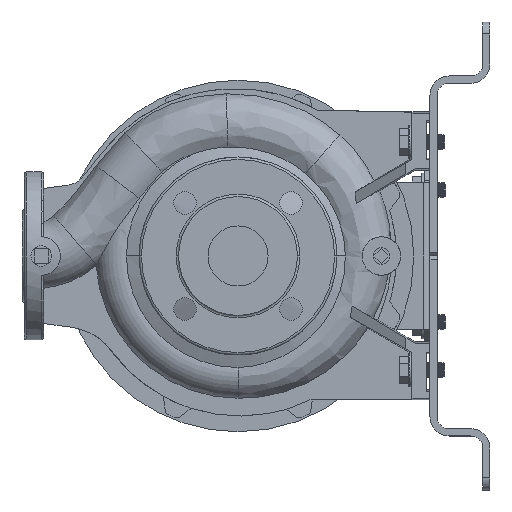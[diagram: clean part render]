
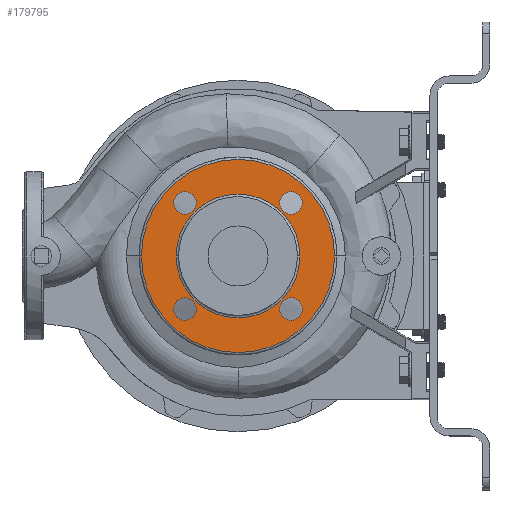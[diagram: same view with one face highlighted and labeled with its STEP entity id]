
A CAD part, left-side view. The second image highlights one B-rep face of the part: STEP entity #179795.
In plain terms, the highlighted planar face has unit normal (-1, 0, 0).
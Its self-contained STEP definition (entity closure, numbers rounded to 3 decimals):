
#2374 = VERTEX_POINT ( 'NONE', #113553 ) ;
#3198 = DIRECTION ( 'NONE',  ( -1., 0., 0. ) ) ;
#3449 = EDGE_LOOP ( 'NONE', ( #95793, #33792 ) ) ;
#3582 = EDGE_LOOP ( 'NONE', ( #151907, #168632 ) ) ;
#5543 = CIRCLE ( 'NONE', #92190, 80.5 ) ;
#5945 = EDGE_CURVE ( 'NONE', #12236, #63255, #109373, .T. ) ;
#6536 = VERTEX_POINT ( 'NONE', #120479 ) ;
#9191 = CARTESIAN_POINT ( 'NONE',  ( -78., -44.194, 44.194 ) ) ;
#11956 = CARTESIAN_POINT ( 'NONE',  ( -78., -51.5, 0. ) ) ;
#12236 = VERTEX_POINT ( 'NONE', #34732 ) ;
#15336 = EDGE_CURVE ( 'NONE', #69836, #98791, #116028, .T. ) ;
#16054 = AXIS2_PLACEMENT_3D ( 'NONE', #9191, #35436, #37278 ) ;
#18923 = AXIS2_PLACEMENT_3D ( 'NONE', #32266, #134303, #38476 ) ;
#19164 = EDGE_LOOP ( 'NONE', ( #110236, #131657 ) ) ;
#19491 = ORIENTED_EDGE ( 'NONE', *, *, #52812, .F. ) ;
#21240 = DIRECTION ( 'NONE',  ( -1., 0., 0. ) ) ;
#22692 = DIRECTION ( 'NONE',  ( 0., 1., 0. ) ) ;
#27019 = EDGE_CURVE ( 'NONE', #59258, #2374, #180402, .T. ) ;
#27023 = EDGE_CURVE ( 'NONE', #164347, #124750, #123594, .T. ) ;
#28601 = AXIS2_PLACEMENT_3D ( 'NONE', #169372, #140337, #69178 ) ;
#32266 = CARTESIAN_POINT ( 'NONE',  ( -78., 44.194, 44.194 ) ) ;
#33395 = CIRCLE ( 'NONE', #165089, 9.5 ) ;
#33433 = CARTESIAN_POINT ( 'NONE',  ( -78., 44.194, -44.194 ) ) ;
#33792 = ORIENTED_EDGE ( 'NONE', *, *, #163887, .T. ) ;
#34732 = CARTESIAN_POINT ( 'NONE',  ( -78., -80.5, 0. ) ) ;
#35436 = DIRECTION ( 'NONE',  ( -1., 0., 0. ) ) ;
#35702 = CARTESIAN_POINT ( 'NONE',  ( -78., 80.5, 0. ) ) ;
#37278 = DIRECTION ( 'NONE',  ( 0., 0., -1. ) ) ;
#38476 = DIRECTION ( 'NONE',  ( 0., -1., 0. ) ) ;
#39722 = VERTEX_POINT ( 'NONE', #46071 ) ;
#41995 = CARTESIAN_POINT ( 'NONE',  ( -78., -44.194, 44.194 ) ) ;
#45533 = AXIS2_PLACEMENT_3D ( 'NONE', #184288, #141214, #84126 ) ;
#46071 = CARTESIAN_POINT ( 'NONE',  ( -78., 51.5, 0. ) ) ;
#46294 = DIRECTION ( 'NONE',  ( 0., 0., 1. ) ) ;
#48107 = CARTESIAN_POINT ( 'NONE',  ( -78., -44.194, -44.194 ) ) ;
#50782 = PLANE ( 'NONE',  #151335 ) ;
#52812 = EDGE_CURVE ( 'NONE', #2374, #59258, #123013, .T. ) ;
#54036 = EDGE_CURVE ( 'NONE', #6536, #170288, #141143, .T. ) ;
#54126 = AXIS2_PLACEMENT_3D ( 'NONE', #126971, #141018, #180448 ) ;
#54423 = FACE_BOUND ( 'NONE', #169052, .T. ) ;
#59218 = AXIS2_PLACEMENT_3D ( 'NONE', #48107, #3198, #60311 ) ;
#59258 = VERTEX_POINT ( 'NONE', #109710 ) ;
#59542 = EDGE_CURVE ( 'NONE', #170288, #6536, #156666, .T. ) ;
#60311 = DIRECTION ( 'NONE',  ( 0., 1., 0. ) ) ;
#62015 = DIRECTION ( 'NONE',  ( 0., -1., 0. ) ) ;
#63169 = CARTESIAN_POINT ( 'NONE',  ( -78., 44.194, -44.194 ) ) ;
#63255 = VERTEX_POINT ( 'NONE', #35702 ) ;
#64170 = EDGE_LOOP ( 'NONE', ( #83135, #139194 ) ) ;
#64386 = ORIENTED_EDGE ( 'NONE', *, *, #77939, .F. ) ;
#69178 = DIRECTION ( 'NONE',  ( 0., -1., 0. ) ) ;
#69836 = VERTEX_POINT ( 'NONE', #99045 ) ;
#71023 = VERTEX_POINT ( 'NONE', #11956 ) ;
#76489 = EDGE_CURVE ( 'NONE', #124750, #164347, #33395, .T. ) ;
#77939 = EDGE_CURVE ( 'NONE', #98791, #69836, #126251, .T. ) ;
#83135 = ORIENTED_EDGE ( 'NONE', *, *, #109636, .F. ) ;
#84126 = DIRECTION ( 'NONE',  ( 0., 1., 0. ) ) ;
#88861 = AXIS2_PLACEMENT_3D ( 'NONE', #185050, #157905, #141985 ) ;
#92190 = AXIS2_PLACEMENT_3D ( 'NONE', #125404, #111371, #168485 ) ;
#93516 = CARTESIAN_POINT ( 'NONE',  ( -78., -53.694, -44.194 ) ) ;
#93779 = EDGE_LOOP ( 'NONE', ( #64386, #98218 ) ) ;
#93871 = CARTESIAN_POINT ( 'NONE',  ( -78., 51.5, 0. ) ) ;
#94244 = DIRECTION ( 'NONE',  ( 0., 0., 1. ) ) ;
#95710 = FACE_BOUND ( 'NONE', #19164, .T. ) ;
#95793 = ORIENTED_EDGE ( 'NONE', *, *, #5945, .T. ) ;
#98218 = ORIENTED_EDGE ( 'NONE', *, *, #15336, .F. ) ;
#98791 = VERTEX_POINT ( 'NONE', #93516 ) ;
#99045 = CARTESIAN_POINT ( 'NONE',  ( -78., -34.694, -44.194 ) ) ;
#99138 = DIRECTION ( 'NONE',  ( -1., 0., 0. ) ) ;
#106238 = DIRECTION ( 'NONE',  ( -1., 0., 0. ) ) ;
#106564 = CARTESIAN_POINT ( 'NONE',  ( -78., 34.694, -44.194 ) ) ;
#109373 = CIRCLE ( 'NONE', #28601, 80.5 ) ;
#109636 = EDGE_CURVE ( 'NONE', #71023, #39722, #169592, .T. ) ;
#109710 = CARTESIAN_POINT ( 'NONE',  ( -78., 53.694, 44.194 ) ) ;
#110236 = ORIENTED_EDGE ( 'NONE', *, *, #59542, .F. ) ;
#111044 = CIRCLE ( 'NONE', #134944, 51.5 ) ;
#111371 = DIRECTION ( 'NONE',  ( -1., 0., 0. ) ) ;
#111588 = FACE_BOUND ( 'NONE', #64170, .T. ) ;
#113553 = CARTESIAN_POINT ( 'NONE',  ( -78., 34.694, 44.194 ) ) ;
#116028 = CIRCLE ( 'NONE', #59218, 9.5 ) ;
#119092 = EDGE_CURVE ( 'NONE', #39722, #71023, #111044, .T. ) ;
#120479 = CARTESIAN_POINT ( 'NONE',  ( -78., -34.694, 44.194 ) ) ;
#123013 = CIRCLE ( 'NONE', #54126, 9.5 ) ;
#123594 = CIRCLE ( 'NONE', #159136, 9.5 ) ;
#124750 = VERTEX_POINT ( 'NONE', #137976 ) ;
#125404 = CARTESIAN_POINT ( 'NONE',  ( -78., 0., 0. ) ) ;
#125622 = FACE_BOUND ( 'NONE', #93779, .T. ) ;
#126251 = CIRCLE ( 'NONE', #45533, 9.5 ) ;
#126971 = CARTESIAN_POINT ( 'NONE',  ( -78., 44.194, 44.194 ) ) ;
#131657 = ORIENTED_EDGE ( 'NONE', *, *, #54036, .F. ) ;
#132115 = CARTESIAN_POINT ( 'NONE',  ( -78., -53.694, 44.194 ) ) ;
#134303 = DIRECTION ( 'NONE',  ( -1., 0., 0. ) ) ;
#134944 = AXIS2_PLACEMENT_3D ( 'NONE', #163146, #177177, #62015 ) ;
#135160 = AXIS2_PLACEMENT_3D ( 'NONE', #41995, #99138, #185273 ) ;
#137976 = CARTESIAN_POINT ( 'NONE',  ( -78., 53.694, -44.194 ) ) ;
#139194 = ORIENTED_EDGE ( 'NONE', *, *, #119092, .F. ) ;
#140337 = DIRECTION ( 'NONE',  ( -1., 0., 0. ) ) ;
#141018 = DIRECTION ( 'NONE',  ( -1., 0., 0. ) ) ;
#141143 = CIRCLE ( 'NONE', #135160, 9.5 ) ;
#141214 = DIRECTION ( 'NONE',  ( -1., 0., 0. ) ) ;
#141985 = DIRECTION ( 'NONE',  ( 0., -1., 0. ) ) ;
#150987 = DIRECTION ( 'NONE',  ( 1., 0., 0. ) ) ;
#151335 = AXIS2_PLACEMENT_3D ( 'NONE', #93871, #150987, #22692 ) ;
#151907 = ORIENTED_EDGE ( 'NONE', *, *, #27023, .F. ) ;
#156666 = CIRCLE ( 'NONE', #16054, 9.5 ) ;
#157905 = DIRECTION ( 'NONE',  ( -1., 0., 0. ) ) ;
#159136 = AXIS2_PLACEMENT_3D ( 'NONE', #63169, #106238, #46294 ) ;
#163146 = CARTESIAN_POINT ( 'NONE',  ( -78., 0., 0. ) ) ;
#163887 = EDGE_CURVE ( 'NONE', #63255, #12236, #5543, .T. ) ;
#164347 = VERTEX_POINT ( 'NONE', #106564 ) ;
#165089 = AXIS2_PLACEMENT_3D ( 'NONE', #33433, #21240, #94244 ) ;
#168485 = DIRECTION ( 'NONE',  ( 0., -1., 0. ) ) ;
#168632 = ORIENTED_EDGE ( 'NONE', *, *, #76489, .F. ) ;
#169052 = EDGE_LOOP ( 'NONE', ( #19491, #169786 ) ) ;
#169372 = CARTESIAN_POINT ( 'NONE',  ( -78., 0., 0. ) ) ;
#169592 = CIRCLE ( 'NONE', #88861, 51.5 ) ;
#169786 = ORIENTED_EDGE ( 'NONE', *, *, #27019, .F. ) ;
#170288 = VERTEX_POINT ( 'NONE', #132115 ) ;
#177177 = DIRECTION ( 'NONE',  ( -1., 0., 0. ) ) ;
#179082 = FACE_OUTER_BOUND ( 'NONE', #3449, .T. ) ;
#179795 = ADVANCED_FACE ( 'NONE', ( #95710, #125622, #182735, #54423, #111588, #179082 ), #50782, .F. ) ;
#180402 = CIRCLE ( 'NONE', #18923, 9.5 ) ;
#180448 = DIRECTION ( 'NONE',  ( 0., -1., 0. ) ) ;
#182735 = FACE_BOUND ( 'NONE', #3582, .T. ) ;
#184288 = CARTESIAN_POINT ( 'NONE',  ( -78., -44.194, -44.194 ) ) ;
#185050 = CARTESIAN_POINT ( 'NONE',  ( -78., 0., 0. ) ) ;
#185273 = DIRECTION ( 'NONE',  ( 0., 0., -1. ) ) ;
